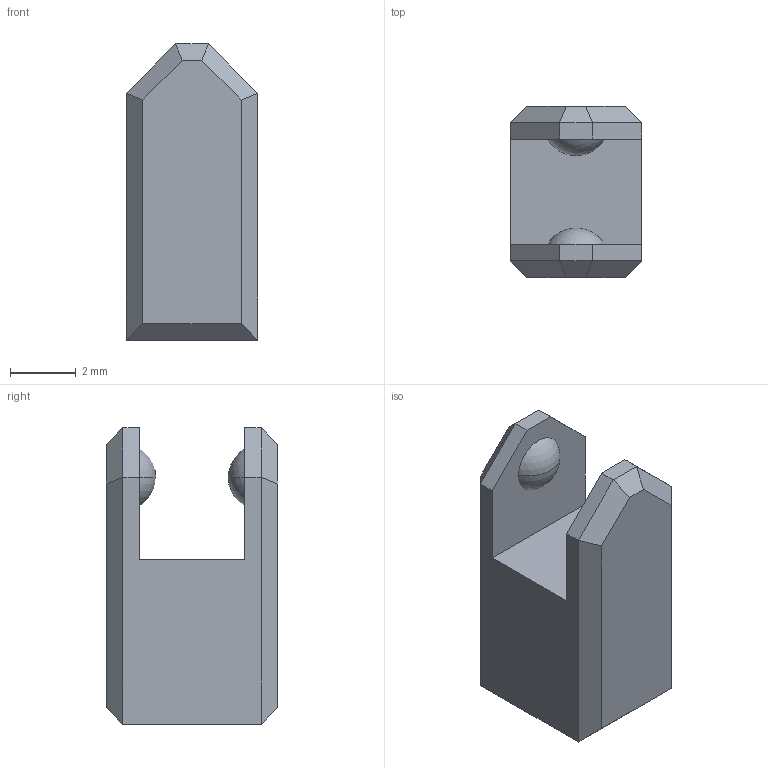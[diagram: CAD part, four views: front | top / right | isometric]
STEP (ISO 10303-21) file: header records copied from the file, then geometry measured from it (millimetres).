
FILE_DESCRIPTION (( 'STEP AP214' ), '1' );
FILE_NAME ('Ankle Armor.STEP', '2023-12-23T22:25:47', ( '' ), ( '' ), 'SwSTEP 2.0', 'SolidWorks 2023', '' );
FILE_SCHEMA (( 'AUTOMOTIVE_DESIGN' ));
Length unit declared in the file: millimetre
Products named in the file (1): Ankle Armor
Bounding box: 4 x 5.2 x 9 mm (x, y, z)
Volume: 107.9 mm3; surface area: 218.9 mm2
Topology: 1 solids, 1 shells, 35 faces, 80 edges, 50 vertices
Faces by surface type: plane 31, sphere 4
Entity records: 985 total; most frequent: CARTESIAN_POINT 166, ORIENTED_EDGE 160, DIRECTION 160, EDGE_CURVE 80, LINE 72, VECTOR 72, VERTEX_POINT 50, AXIS2_PLACEMENT_3D 44
